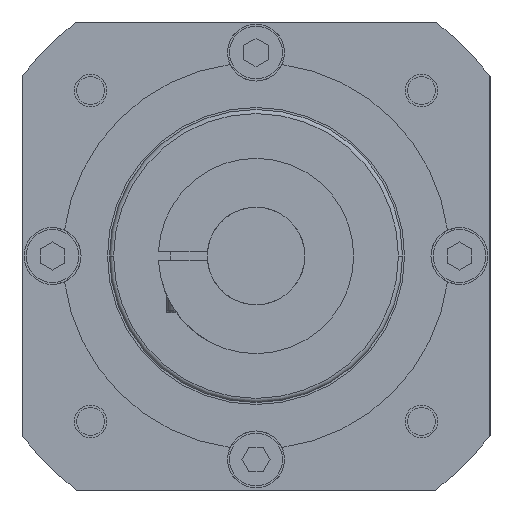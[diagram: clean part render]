
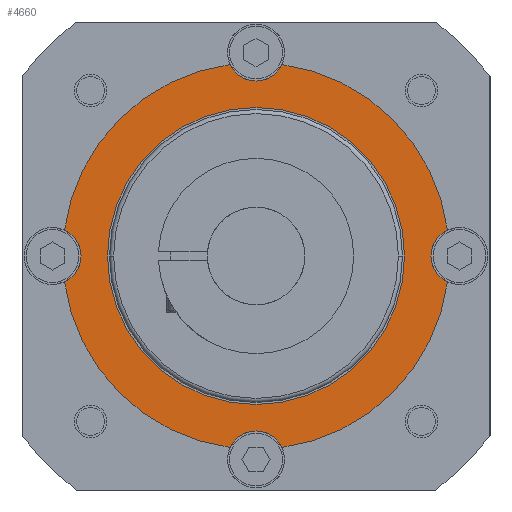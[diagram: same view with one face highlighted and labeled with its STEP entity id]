
A CAD part, left-side view. The second image highlights one B-rep face of the part: STEP entity #4660.
In plain terms, the highlighted planar face has unit normal (-1, 0, 0).
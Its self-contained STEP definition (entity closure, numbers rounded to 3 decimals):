
#959=CARTESIAN_POINT('',(8.45,0.,0.));
#960=DIRECTION('',(1.,0.,0.));
#961=DIRECTION('',(0.,0.991,0.134));
#962=AXIS2_PLACEMENT_3D('',#959,#960,#961);
#968=CARTESIAN_POINT('',(8.45,0.,0.));
#969=DIRECTION('',(1.,0.,0.));
#970=DIRECTION('',(0.,-0.134,0.991));
#971=AXIS2_PLACEMENT_3D('',#968,#969,#970);
#985=CARTESIAN_POINT('',(8.45,0.,0.));
#986=DIRECTION('',(-1.,0.,0.));
#987=DIRECTION('',(0.,-0.134,-0.991));
#988=AXIS2_PLACEMENT_3D('',#985,#986,#987);
#994=CARTESIAN_POINT('',(8.45,0.,0.));
#995=DIRECTION('',(-1.,0.,0.));
#996=DIRECTION('',(0.,0.991,-0.134));
#997=AXIS2_PLACEMENT_3D('',#994,#995,#996);
#1011=CARTESIAN_POINT('',(8.45,0.,0.));
#1012=DIRECTION('',(-1.,0.,0.));
#1013=DIRECTION('',(0.,1.,0.));
#1014=AXIS2_PLACEMENT_3D('',#1011,#1012,#1013);
#1016=CARTESIAN_POINT('',(8.45,0.,0.));
#1017=DIRECTION('',(1.,0.,0.));
#1018=DIRECTION('',(0.,1.,0.));
#1019=AXIS2_PLACEMENT_3D('',#1016,#1017,#1018);
#1021=CARTESIAN_POINT('',(8.45,-50.,0.));
#1022=DIRECTION('',(-1.,0.,0.));
#1023=DIRECTION('',(0.,0.418,0.908));
#1024=AXIS2_PLACEMENT_3D('',#1021,#1022,#1023);
#1026=CARTESIAN_POINT('',(8.45,0.,-50.));
#1027=DIRECTION('',(-1.,0.,0.));
#1028=DIRECTION('',(0.,-0.908,0.418));
#1029=AXIS2_PLACEMENT_3D('',#1026,#1027,#1028);
#1031=CARTESIAN_POINT('',(8.45,0.,-50.));
#1032=DIRECTION('',(-1.,0.,0.));
#1033=DIRECTION('',(0.,0.,1.));
#1034=AXIS2_PLACEMENT_3D('',#1031,#1032,#1033);
#1036=CARTESIAN_POINT('',(8.45,50.,0.));
#1037=DIRECTION('',(-1.,0.,0.));
#1038=DIRECTION('',(0.,-0.418,-0.908));
#1039=AXIS2_PLACEMENT_3D('',#1036,#1037,#1038);
#1041=CARTESIAN_POINT('',(8.45,0.,50.));
#1042=DIRECTION('',(-1.,0.,0.));
#1043=DIRECTION('',(0.,0.908,-0.418));
#1044=AXIS2_PLACEMENT_3D('',#1041,#1042,#1043);
#1046=CARTESIAN_POINT('',(8.45,0.,50.));
#1047=DIRECTION('',(-1.,0.,0.));
#1048=DIRECTION('',(0.,0.,-1.));
#1049=AXIS2_PLACEMENT_3D('',#1046,#1047,#1048);
#2853=CARTESIAN_POINT('',(8.45,-36.5,0.));
#2855=VERTEX_POINT('',#2853);
#2857=CARTESIAN_POINT('',(8.45,36.5,0.));
#2859=VERTEX_POINT('',#2857);
#2983=CARTESIAN_POINT('',(8.45,0.,-43.));
#2984=VERTEX_POINT('',#2983);
#3299=CARTESIAN_POINT('',(8.45,-47.073,6.358));
#3300=CARTESIAN_POINT('',(8.45,-47.073,-6.358));
#3301=VERTEX_POINT('',#3299);
#3302=VERTEX_POINT('',#3300);
#3303=CARTESIAN_POINT('',(8.45,47.073,-6.358));
#3304=CARTESIAN_POINT('',(8.45,47.073,6.358));
#3305=VERTEX_POINT('',#3303);
#3306=VERTEX_POINT('',#3304);
#3307=CARTESIAN_POINT('',(8.45,-6.358,-47.073));
#3308=VERTEX_POINT('',#3307);
#3309=CARTESIAN_POINT('',(8.45,6.358,-47.073));
#3310=VERTEX_POINT('',#3309);
#3311=CARTESIAN_POINT('',(8.45,0.,43.));
#3312=CARTESIAN_POINT('',(8.45,-6.358,47.073));
#3313=VERTEX_POINT('',#3311);
#3314=VERTEX_POINT('',#3312);
#3315=CARTESIAN_POINT('',(8.45,6.358,47.073));
#3316=VERTEX_POINT('',#3315);
#4635=CARTESIAN_POINT('',(8.45,0.,0.));
#4636=DIRECTION('',(1.,0.,0.));
#4637=DIRECTION('',(0.,1.,0.));
#4638=AXIS2_PLACEMENT_3D('',#4635,#4636,#4637);
#4639=PLANE('',#4638);
#4640=ORIENTED_EDGE('',*,*,#4437,.T.);
#4641=ORIENTED_EDGE('',*,*,#4584,.F.);
#4643=ORIENTED_EDGE('',*,*,#4642,.T.);
#4645=ORIENTED_EDGE('',*,*,#4644,.T.);
#4646=ORIENTED_EDGE('',*,*,#4595,.F.);
#4647=ORIENTED_EDGE('',*,*,#4528,.T.);
#4648=ORIENTED_EDGE('',*,*,#4556,.T.);
#4649=ORIENTED_EDGE('',*,*,#4614,.T.);
#4650=ORIENTED_EDGE('',*,*,#4627,.T.);
#4651=ORIENTED_EDGE('',*,*,#4567,.T.);
#4652=EDGE_LOOP('',(#4640,#4641,#4643,#4645,#4646,#4647,#4648,#4649,#4650,
#4651));
#4653=FACE_OUTER_BOUND('',#4652,.F.);
#4655=ORIENTED_EDGE('',*,*,#4654,.T.);
#4657=ORIENTED_EDGE('',*,*,#4656,.F.);
#4658=EDGE_LOOP('',(#4655,#4657));
#4659=FACE_BOUND('',#4658,.F.);
#963=CIRCLE('',#962,47.5);
#972=CIRCLE('',#971,47.5);
#989=CIRCLE('',#988,47.5);
#998=CIRCLE('',#997,47.5);
#1015=CIRCLE('',#1014,36.5);
#1020=CIRCLE('',#1019,36.5);
#1025=CIRCLE('',#1024,7.);
#1030=CIRCLE('',#1029,7.);
#1035=CIRCLE('',#1034,7.);
#1040=CIRCLE('',#1039,7.);
#1045=CIRCLE('',#1044,7.);
#1050=CIRCLE('',#1049,7.);
#4437=EDGE_CURVE('',#3301,#3302,#1025,.T.);
#4528=EDGE_CURVE('',#3305,#3306,#1040,.T.);
#4556=EDGE_CURVE('',#3306,#3316,#963,.T.);
#4567=EDGE_CURVE('',#3314,#3301,#972,.T.);
#4584=EDGE_CURVE('',#3308,#3302,#989,.T.);
#4595=EDGE_CURVE('',#3305,#3310,#998,.T.);
#4614=EDGE_CURVE('',#3316,#3313,#1045,.T.);
#4627=EDGE_CURVE('',#3313,#3314,#1050,.T.);
#4642=EDGE_CURVE('',#3308,#2984,#1030,.T.);
#4644=EDGE_CURVE('',#2984,#3310,#1035,.T.);
#4654=EDGE_CURVE('',#2859,#2855,#1015,.T.);
#4656=EDGE_CURVE('',#2859,#2855,#1020,.T.);
#4660=ADVANCED_FACE('',(#4653,#4659),#4639,.F.);
